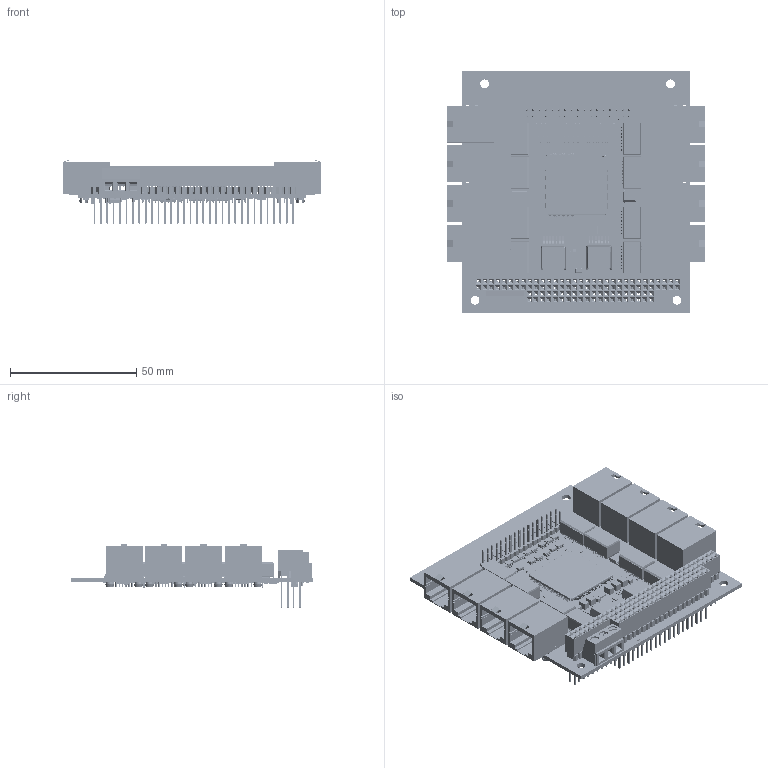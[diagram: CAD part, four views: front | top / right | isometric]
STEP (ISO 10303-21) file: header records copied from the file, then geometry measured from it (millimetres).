
FILE_DESCRIPTION (( 'STEP AP214' ), '1' );
FILE_NAME ('ESW-104-0.STEP', '2024-09-10T10:37:22', ( '' ), ( '' ), 'SwSTEP 2.0', 'SolidWorks 2022', '' );
FILE_SCHEMA (( 'AUTOMOTIVE_DESIGN' ));
Length unit declared in the file: millimetre
Products named in the file (1): ESW-104-0
Bounding box: 102.11 x 95.89 x 25.67 mm (x, y, z)
Surface area: 51419.2 mm2 (no closed solid volume)
Topology: 0 solids, 1904 shells, 9378 faces, 35251 edges, 27600 vertices
Faces by surface type: plane 8011, cylinder 1296, cone 48, sphere 10, bspline 10, torus 3
Full cylindrical faces by diameter (mm): 0.4 x14, 1 x17, 1.09 x77, 1.57 x1, 1.62 x1, 1.65 x2, 1.8 x3, 3.5 x20, 3.6 x3
Entity records: 467915 total; most frequent: CARTESIAN_POINT 76075, DIRECTION 57743, ORIENTED_EDGE 48280, EDGE_CURVE 35106, LINE 29185, VECTOR 29185, VERTEX_POINT 27599, AXIS2_PLACEMENT_3D 14279
